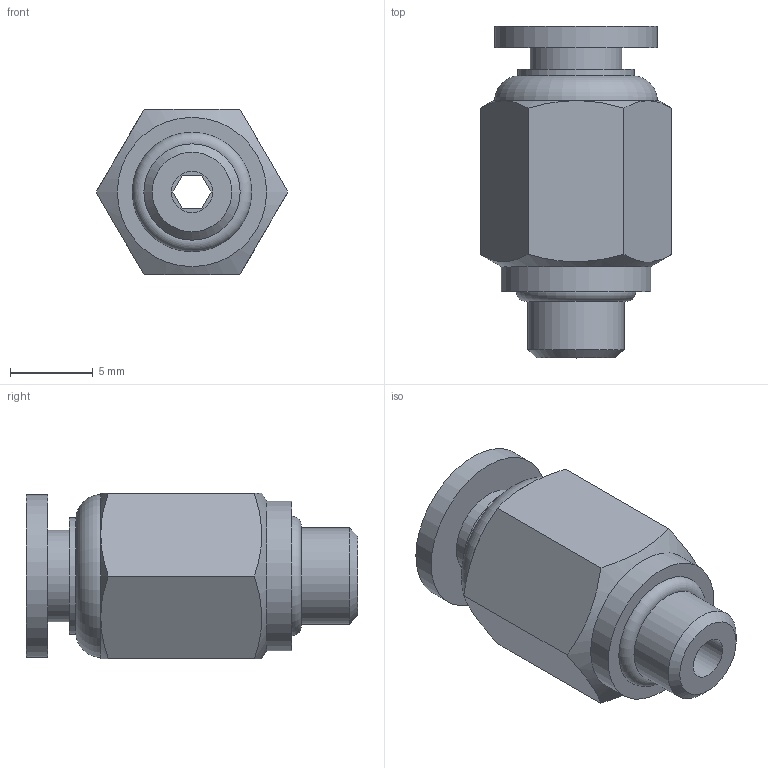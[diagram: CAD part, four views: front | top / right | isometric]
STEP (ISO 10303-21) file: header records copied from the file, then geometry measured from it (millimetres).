
FILE_DESCRIPTION(/* description */ (''),/* implementation_level */ '2;1');
FILE_NAME(/* name */ 'S:\_Tecnico\ArchivioUT\_Disegni3D ingombri\DISEGNI 3D per ingombri\RP\RP 51\RP51M604.stp',/* time_stamp */ '2019-07-24T14:47:10+02:00',/* author */ ('ufficiotecnico3'),/* organization */ (''),/* preprocessor_version */ 'ST-DEVELOPER v18',/* originating_system */ 'Autodesk Inventor 2020',/* authorisation */ '');
FILE_SCHEMA (('AUTOMOTIVE_DESIGN { 1 0 10303 214 3 1 1 }'));
Length unit declared in the file: millimetre
Products named in the file (1): RP51M604
Bounding box: 11.55 x 20 x 10 mm (x, y, z)
Volume: 1107.8 mm3; surface area: 1023 mm2
Topology: 1 solids, 1 shells, 39 faces, 94 edges, 63 vertices
Faces by surface type: plane 20, cone 9, cylinder 8, torus 2
Full cylindrical faces by diameter (mm): 2.5 x1, 4 x1, 5.5 x1, 5.8 x1, 7 x1, 9 x1, 9.8 x2
Entity records: 1194 total; most frequent: CARTESIAN_POINT 233, DIRECTION 197, ORIENTED_EDGE 188, EDGE_CURVE 94, AXIS2_PLACEMENT_3D 81, VERTEX_POINT 63, EDGE_LOOP 47, CIRCLE 41
